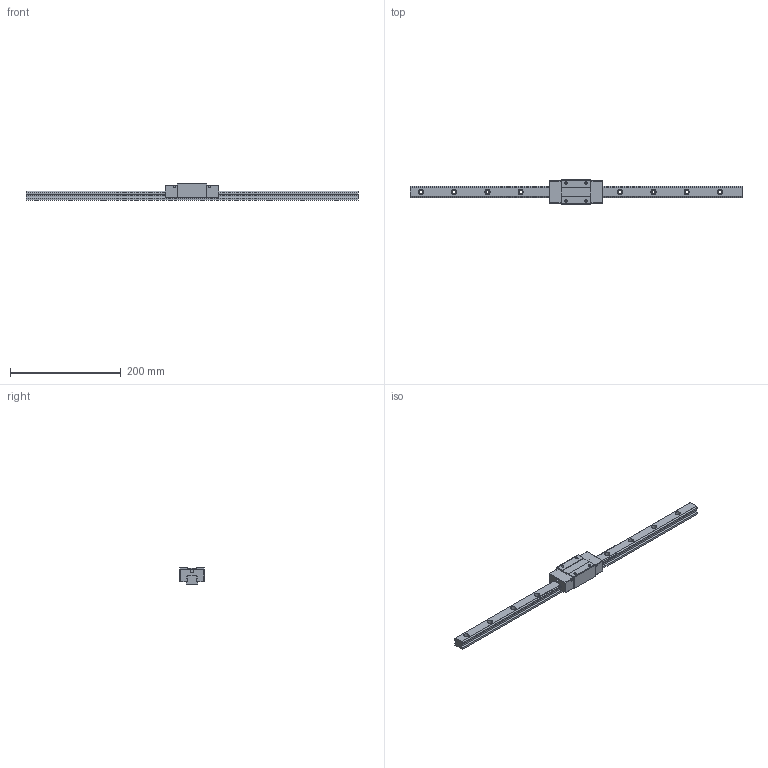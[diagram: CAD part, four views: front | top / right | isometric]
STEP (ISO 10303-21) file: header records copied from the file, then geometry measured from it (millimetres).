
FILE_DESCRIPTION (( 'STEP AP203' ), '1' );
FILE_NAME ('TRH20VN-WZ.STEP', '2024-05-23T03:03:13', ( '' ), ( '' ), 'SwSTEP 2.0', 'SolidWorks 2022', '' );
FILE_SCHEMA (( 'CONFIG_CONTROL_DESIGN' ));
Length unit declared in the file: millimetre
Products named in the file (1): TRH20VN-WZ
Bounding box: 600 x 44 x 30 mm (x, y, z)
Volume: 246831 mm3; surface area: 67501.3 mm2
Topology: 2 solids, 2 shells, 196 faces, 512 edges, 332 vertices
Faces by surface type: cylinder 96, plane 84, cone 16
Entity records: 6127 total; most frequent: DIRECTION 1098, CARTESIAN_POINT 1033, ORIENTED_EDGE 1008, EDGE_CURVE 504, AXIS2_PLACEMENT_3D 397, VERTEX_POINT 332, VECTOR 304, LINE 304
